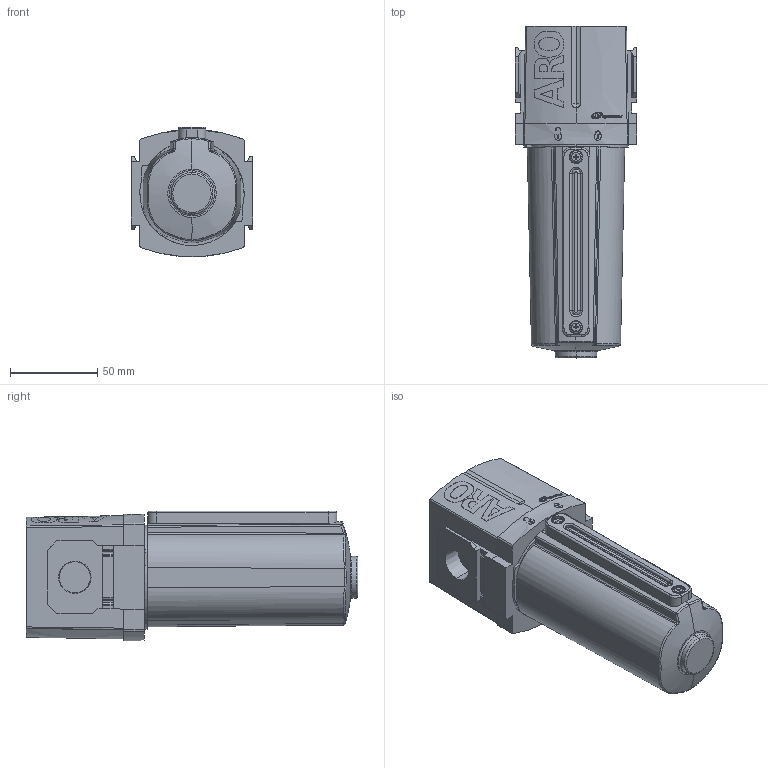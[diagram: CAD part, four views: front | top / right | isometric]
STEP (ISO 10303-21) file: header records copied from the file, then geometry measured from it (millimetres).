
FILE_DESCRIPTION(/* description */ (''),/* implementation_level */ '2;1');
FILE_NAME(/* name */ 'F353XX-X1X_01',/* time_stamp */ '2009-02-05T10:16:20-05:00',/* author */ (''),/* organization */ (''),/* preprocessor_version */ 'ST-DEVELOPER v9',/* originating_system */ 'UGS - NX 4.0',/* authorisation */ '');
FILE_SCHEMA (('AUTOMOTIVE_DESIGN { 1 0 10303 214 1 1 1 1 }'));
Length unit declared in the file: inch
Products named in the file (1): szee378Clf0d
Bounding box: 70 x 190.73 x 74.5 mm (x, y, z)
Volume: 595444 mm3; surface area: 52498 mm2
Topology: 1 solids, 1 shells, 842 faces, 2236 edges, 1470 vertices
Faces by surface type: plane 590, cylinder 84, extrusion 81, cone 37, torus 20, bspline 19, revolution 7, sphere 4
Entity records: 37146 total; most frequent: CARTESIAN_POINT 10882, ORIENTED_EDGE 4470, DIRECTION 3744, EDGE_CURVE 2235, VECTOR 1593, LINE 1512, VERTEX_POINT 1473, AXIS2_PLACEMENT_3D 1072
